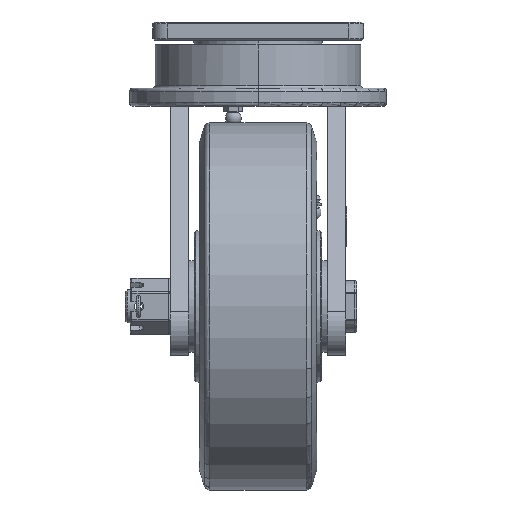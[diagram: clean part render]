
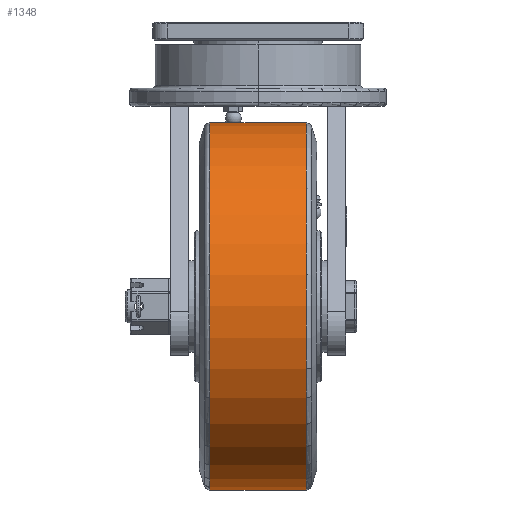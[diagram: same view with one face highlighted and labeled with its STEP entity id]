
A CAD part, left-side view. The second image highlights one B-rep face of the part: STEP entity #1348.
In plain terms, the highlighted cylindrical face has radius 100 mm (diameter 200 mm), a partial arc.
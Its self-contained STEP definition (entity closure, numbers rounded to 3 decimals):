
#1348=ADVANCED_FACE('',(#2379),#2133,.T.);
#2133=CYLINDRICAL_SURFACE('',#13405,100.);
#2379=FACE_OUTER_BOUND('',#3136,.T.);
#3136=EDGE_LOOP('',(#4653,#4654,#4655,#4656));
#4013=CIRCLE('',#13402,100.);
#4014=CIRCLE('',#13404,100.);
#4653=ORIENTED_EDGE('',*,*,#9871,.T.);
#4654=ORIENTED_EDGE('',*,*,#9884,.T.);
#4655=ORIENTED_EDGE('',*,*,#9870,.F.);
#4656=ORIENTED_EDGE('',*,*,#9883,.T.);
#8606=VERTEX_POINT('',#18290);
#8607=VERTEX_POINT('',#18292);
#8608=VERTEX_POINT('',#18296);
#8609=VERTEX_POINT('',#18298);
#9870=EDGE_CURVE('',#8608,#8606,#11831,.T.);
#9871=EDGE_CURVE('',#8609,#8607,#11832,.T.);
#9883=EDGE_CURVE('',#8608,#8609,#4013,.T.);
#9884=EDGE_CURVE('',#8607,#8606,#4014,.T.);
#11831=LINE('',#18295,#12596);
#11832=LINE('',#18297,#12597);
#12596=VECTOR('',#14768,1.);
#12597=VECTOR('',#14769,1.);
#13402=AXIS2_PLACEMENT_3D('',#18320,#14798,#14799);
#13404=AXIS2_PLACEMENT_3D('',#18322,#14802,#14803);
#13405=AXIS2_PLACEMENT_3D('',#18323,#14804,#14805);
#14768=DIRECTION('',(0.,1.,0.));
#14769=DIRECTION('',(0.,1.,0.));
#14798=DIRECTION('',(0.,1.,0.));
#14799=DIRECTION('',(1.,0.,0.));
#14802=DIRECTION('',(0.,-1.,0.));
#14803=DIRECTION('',(1.,0.,0.));
#14804=DIRECTION('',(0.,1.,0.));
#14805=DIRECTION('',(0.,0.,1.));
#18290=CARTESIAN_POINT('',(-60.,26.284,-255.));
#18292=CARTESIAN_POINT('',(-60.,26.284,-55.));
#18295=CARTESIAN_POINT('',(-60.,-38.225,-255.));
#18296=CARTESIAN_POINT('',(-60.,-26.284,-255.));
#18297=CARTESIAN_POINT('',(-60.,-38.225,-55.));
#18298=CARTESIAN_POINT('',(-60.,-26.284,-55.));
#18320=CARTESIAN_POINT('',(-60.,-26.284,-155.));
#18322=CARTESIAN_POINT('',(-60.,26.284,-155.));
#18323=CARTESIAN_POINT('',(-60.,-38.225,-155.));
